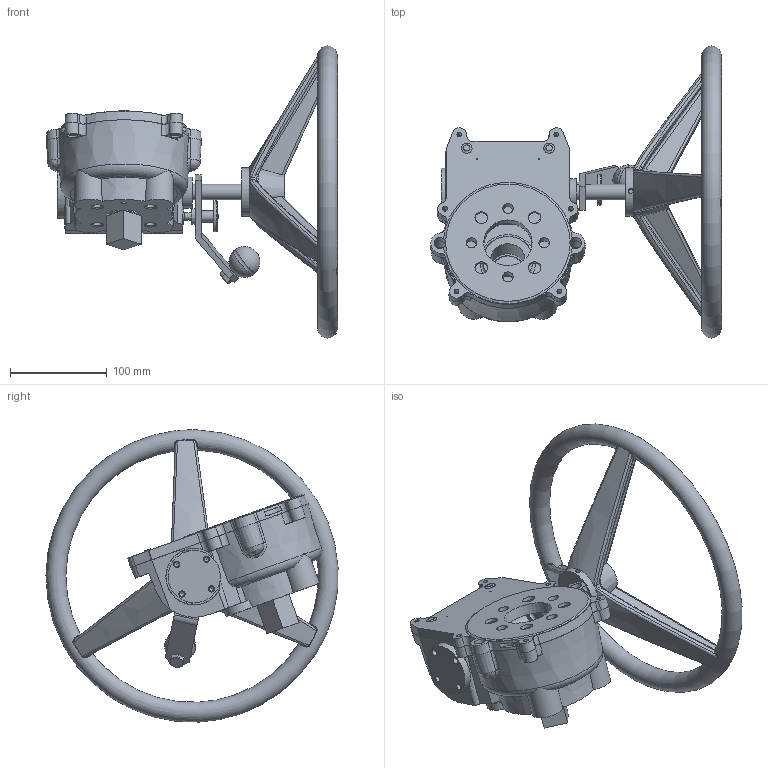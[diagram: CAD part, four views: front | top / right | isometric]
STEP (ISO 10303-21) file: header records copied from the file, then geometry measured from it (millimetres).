
FILE_DESCRIPTION( ( 'Unknown' ), '1' );
FILE_NAME( 'Z:/3D Models for Customers/K BOX/SIMPLE 124 KBOX LH Gearbox Assembly.stp', 'Unknown', ( 'Unknown' ), ( 'Unknown' ), 'PSStep 17.0.49', 'Unknown', ' ' );
FILE_SCHEMA( ( 'AUTOMOTIVE_DESIGN { 1 0 10303 214 1 1 1 1 }' ) );
Length unit declared in the file: millimetre
Products named in the file (15): 93000010 Declutch Lever Assembly; 93007001 RH Lever for K-Box; 654055 Ball Knob 32dia RS686-036; M8x16 hex.hd.; 93008 Detent Housing; 93010 Flat Knob; 93009 Detent; Assem1; 93023001 Handwheel 300 M.C; 93015 Gearbox End Plate; DUMMY ECCENTRIC; 93-027 Gearbox Shaft; DUMMY 124 SHAFT; 93003028 Model 12 K-Box Housing M.C; 93004001 Model 12 Base Plate M.C
Assembly tree (14 placements, depth 3):
  Assem1
    93023001 Handwheel 300 M.C
    93015 Gearbox End Plate
    DUMMY ECCENTRIC
    93-027 Gearbox Shaft
    DUMMY 124 SHAFT
    93003028 Model 12 K-Box Housing M.C
    93004001 Model 12 Base Plate M.C
    93000010 Declutch Lever Assembly
      93007001 RH Lever for K-Box
      654055 Ball Knob 32dia RS686-036
      M8x16 hex.hd.
      93008 Detent Housing
      93010 Flat Knob
      93009 Detent
Bounding box: 300.23 x 301.35 x 301.44 mm (x, y, z)
Volume: 1535579.1 mm3; surface area: 330409.9 mm2
Topology: 13 solids, 13 shells, 573 faces, 1512 edges, 956 vertices
Faces by surface type: plane 157, cylinder 154, cone 105, bspline 99, torus 42, sphere 16
Full cylindrical faces by diameter (mm): 1.3 x2, 4.2 x1, 4.4 x2, 5 x20, 5.001 x1, 5.1 x1, 6 x2, 6.5 x10, 6.8 x1, 8 x2, 8.1 x1, 8.5 x4, 8.7 x1, 10.376 x4, 11 x10, 11.875 x1, 12 x5, 12.02 x1, 13 x4, 16 x2, 16.1 x1, 16.5 x1, 19 x1, 24 x4, 26.5 x1, 30 x1, 32 x4, 35.7 x2, 42.3 x1, 50 x2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
Entity records: 39984 total; most frequent: CARTESIAN_POINT 22432, DIRECTION 2615, ORIENTED_EDGE 2528, EDGE_CURVE 1264, AXIS2_PLACEMENT_3D 1163, VERTEX_POINT 884, EDGE_LOOP 811, FACE_OUTER_BOUND 672
